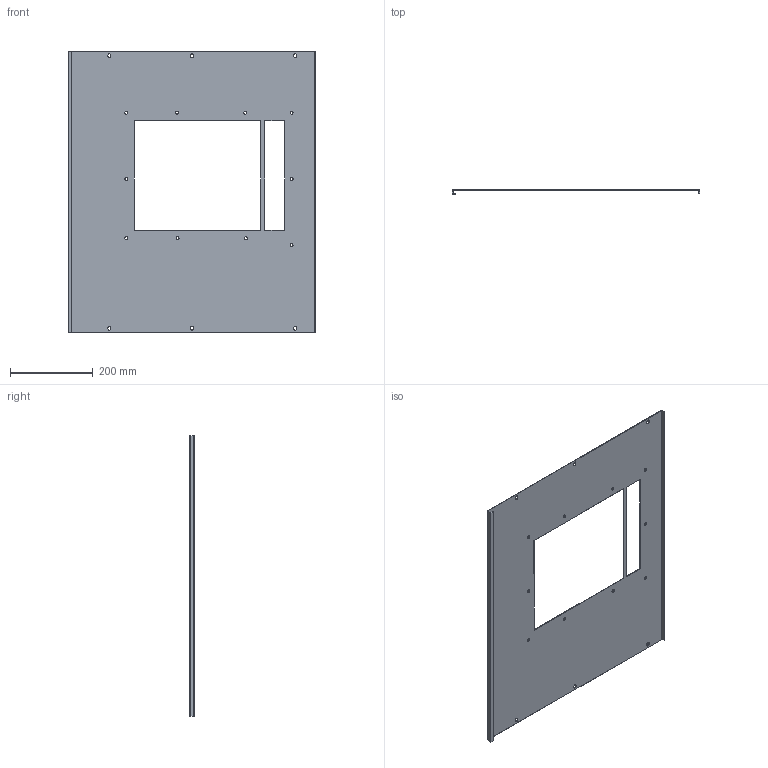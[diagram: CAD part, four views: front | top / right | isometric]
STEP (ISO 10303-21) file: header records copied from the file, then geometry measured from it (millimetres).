
FILE_DESCRIPTION (( 'STEP AP214' ), '1' );
FILE_NAME ('FO-00-PVAB-060-080 Ïëàñòðîí ñ âûðåç äëÿ ACB ARMAT AIIB 3II4P W 600õ800.STEP', '2025-08-26T07:48:25', ( '' ), ( '' ), 'SwSTEP 2.0', 'SolidWorks 2023', '' );
FILE_SCHEMA (( 'AUTOMOTIVE_DESIGN' ));
Length unit declared in the file: millimetre
Products named in the file (1): FO-00-PVAB-060-080 Пластрон с вырез для ACB ARMAT AIIB 3II4P W 600х800
Bounding box: 598 x 12.5 x 679 mm (x, y, z)
Volume: 492735.8 mm3; surface area: 664147 mm2
Topology: 1 solids, 1 shells, 80 faces, 234 edges, 156 vertices
Faces by surface type: plane 42, cylinder 38
Entity records: 2769 total; most frequent: DIRECTION 472, CARTESIAN_POINT 471, ORIENTED_EDGE 468, EDGE_CURVE 234, VECTOR 158, LINE 158, AXIS2_PLACEMENT_3D 157, VERTEX_POINT 156
